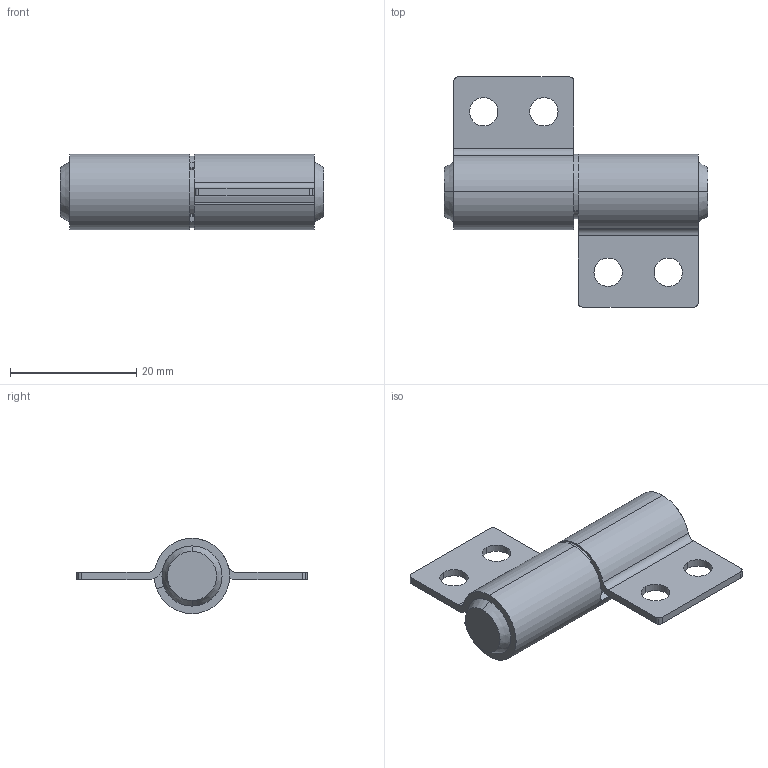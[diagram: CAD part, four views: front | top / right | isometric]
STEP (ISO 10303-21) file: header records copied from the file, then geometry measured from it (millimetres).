
FILE_DESCRIPTION(('STEP AP214'),'1');
FILE_NAME('C:/Users/HAN/Desktop/3000-0001-HNG R Rev 0_0.stp','2012-12-04T04:09:51',(' '),(' '),'Spatial InterOp 3D',' ',' ');
FILE_SCHEMA(('automotive_design'));
Length unit declared in the file: inch
Products named in the file (4): 3000-0001-BND Rev 0_0; 3000-0003-SHA Rev 0_0; Snap Ring 2000-37
Bounding box: 41.78 x 36.47 x 11.93 mm (x, y, z)
Volume: 4894.2 mm3; surface area: 5085.6 mm2
Topology: 4 solids, 4 shells, 76 faces, 194 edges, 128 vertices
Faces by surface type: cylinder 48, plane 24, cone 4
Entity records: 3031 total; most frequent: DIRECTION 454, CARTESIAN_POINT 402, ORIENTED_EDGE 388, EDGE_CURVE 194, AXIS2_PLACEMENT_3D 180, VERTEX_POINT 128, CIRCLE 100, LINE 94
